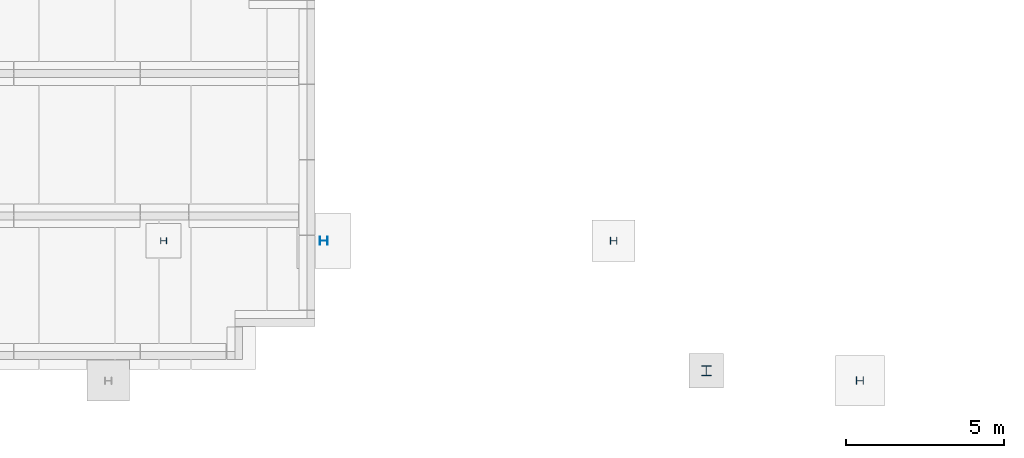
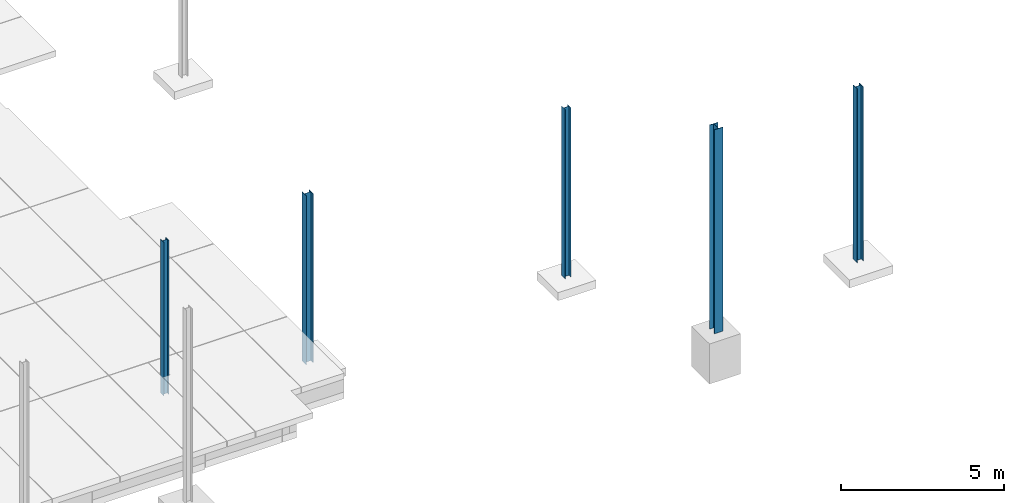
# One storey, part 30 of 59: 5 columns.
"""IFC2X3 building model written with IfcOpenShell, lengths in metres."""

from ifc_helpers import new_model, entity, si_unit, converted_unit, derived_unit, frame, origin, origin_with_axes, place, context, subcontext, project, spatial, polyline, outline, extrude, material, element, save


model = new_model("IFC2X3")

# Units and contexts
model_context = context("Model", 3, precision=1e-05, world=origin())
body_context = subcontext(model_context, "Body", "Model", "MODEL_VIEW")
ifc_project = project(units=[si_unit("LENGTHUNIT", "METRE"), si_unit("AREAUNIT", "SQUARE_METRE"), si_unit("VOLUMEUNIT", "CUBIC_METRE"), si_unit("MASSUNIT", "GRAM", prefix="KILO"), converted_unit("PLANEANGLEUNIT", "DEGREE", entity("IfcPlaneAngleMeasure", 0.0174532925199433), si_unit("PLANEANGLEUNIT", "RADIAN"), dimensions=[0, 0, 0, 0, 0, 0, 0]), derived_unit("THERMALTRANSMITTANCEUNIT", [(si_unit("POWERUNIT", "WATT"), 1), (si_unit("THERMODYNAMICTEMPERATUREUNIT", "KELVIN"), -1), (si_unit("LENGTHUNIT", "METRE"), -2)]), derived_unit("VOLUMETRICFLOWRATEUNIT", [(si_unit("LENGTHUNIT", "METRE"), 3), (converted_unit("TIMEUNIT", "hour", entity("IfcTimeMeasure", 3600.0), si_unit("TIMEUNIT", "SECOND"), dimensions=[0, 0, 1, 0, 0, 0, 0]), -1), (si_unit("LENGTHUNIT", "METRE"), -1)])], contexts=[model_context])

# Site, building, storey
site_placement = place(None, origin())
site = spatial("IfcSite", under=ifc_project, at=site_placement, Name="TWP_Speiseverteilzentrum SBW VZ II", CompositionType="ELEMENT")
building_placement = place(site_placement, origin())
building = spatial("IfcBuilding", under=site, at=building_placement, Name="Speiseverteilzentrum SBW VZ II", CompositionType="ELEMENT")
storey_placement = place(building_placement, frame((0.0, 0.0, 1.7307)))
storey = spatial("IfcBuildingStorey", under=building, at=storey_placement, Name="EG_Produktion_FFB", CompositionType="ELEMENT", Elevation=1.7307)

# Columns
ifc_material_1 = material(Name="S235")
column_1_placement = place(storey_placement, frame((66.2294599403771, 15.0100999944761, -0.99)))
element("IfcColumn", 1, at=column_1_placement, inside=storey, material=ifc_material_1, Name="Stahlstütze", context=body_context, shape_type="SweptSolid", body=[
    extrude(outline(polyline([(0.19, 0.0), (0.19, 0.2), (0.18, 0.2), (0.18, 0.10325), (0.01, 0.10325), (0.01, 0.2), (0.0, 0.2), (0.0, 0.0), (0.01, 0.0), (0.01, 0.09675), (0.18, 0.09675), (0.18, 0.0), (0.19, 0.0)])), origin_with_axes(), (0.0, 0.0, 1.0), 5.76),
])
ifc_material_2 = material(Name="S235")
column_2_placement = place(storey_placement, frame((71.2594131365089, 14.9800999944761, -1.56)))
element("IfcColumn", 2, at=column_2_placement, inside=storey, material=ifc_material_2, Name="Stahlstütze", context=body_context, shape_type="SweptSolid", body=[
    extrude(outline(polyline([(0.25, 0.0), (0.25, 0.26), (0.2375, 0.26), (0.2375, 0.13375), (0.0125, 0.13375), (0.0125, 0.26), (0.0, 0.26), (0.0, 0.0), (0.0125, 0.0), (0.0125, 0.12625), (0.2375, 0.12625), (0.2375, 0.0), (0.25, 0.0)])), origin_with_axes(), (0.0, 0.0, 1.0), 6.33),
])
ifc_material_3 = material(Name="S235")
column_3_placement = place(storey_placement, frame((80.4393226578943, 15.0000999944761, -1.56)))
element("IfcColumn", 3, at=column_3_placement, inside=storey, material=ifc_material_3, Name="Stahlstütze", context=body_context, shape_type="SweptSolid", body=[
    extrude(outline(polyline([(0.21, 0.0), (0.21, 0.22), (0.199, 0.22), (0.199, 0.1135), (0.011, 0.1135), (0.011, 0.22), (0.0, 0.22), (0.0, 0.0), (0.011, 0.0), (0.011, 0.1065), (0.199, 0.1065), (0.199, 0.0), (0.21, 0.0)])), origin_with_axes(), (0.0, 0.0, 1.0), 6.33),
])
ifc_material_4 = material(Name="S235")
column_4_placement = place(storey_placement, frame((83.3266307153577, 10.8501485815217, -2.12)))
element("IfcColumn", 4, at=column_4_placement, inside=storey, material=ifc_material_4, Name="Stahlstütze", context=body_context, shape_type="SweptSolid", body=[
    extrude(outline(polyline([(0.0, 0.0), (0.3, 0.0), (0.3, 0.0155), (0.1545, 0.0155), (0.1545, 0.2945), (0.3, 0.2945), (0.3, 0.31), (0.0, 0.31), (0.0, 0.2945), (0.1455, 0.2945), (0.1455, 0.0155), (0.0, 0.0155), (0.0, 0.0)])), origin_with_axes(), (0.0, 0.0, 1.0), 7.6393),
])
ifc_material_5 = material(Name="S235")
column_5_placement = place(storey_placement, frame((88.2116307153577, 10.5701485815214, -1.0)))
element("IfcColumn", 5, at=column_5_placement, inside=storey, material=ifc_material_5, Name="Stahlstütze", context=body_context, shape_type="SweptSolid", body=[
    extrude(outline(polyline([(0.23, 0.0), (0.23, 0.24), (0.218, 0.24), (0.218, 0.12375), (0.012, 0.12375), (0.012, 0.24), (0.0, 0.24), (0.0, 0.0), (0.012, 0.0), (0.012, 0.11625), (0.218, 0.11625), (0.218, 0.0), (0.23, 0.0)])), origin_with_axes(), (0.0, 0.0, 1.0), 6.5193),
])

save(model, "model.ifc")
